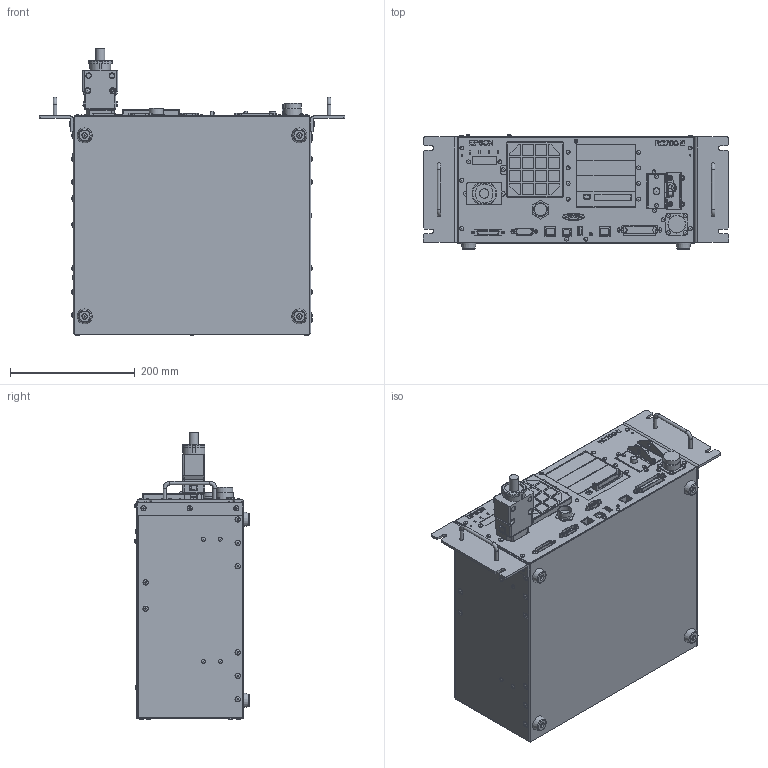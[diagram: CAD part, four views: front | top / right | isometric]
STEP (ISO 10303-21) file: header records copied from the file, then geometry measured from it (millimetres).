
FILE_DESCRIPTION(/* description */ ('STEP AP214'),/* implementation_level */ '2;1');
FILE_NAME(/* name */ 'RC-700E_S',/* time_stamp */ '2024-09-05T12:39:06+02:00',/* author */ ('License CC BY-ND 4.0'),/* organization */ ('CADENAS'),/* preprocessor_version */ 'ST-DEVELOPER v19.3',/* originating_system */ 'PARTsolutions',/* authorisation */ ' ');
FILE_SCHEMA (('AUTOMOTIVE_DESIGN {1 0 10303 214 3 1 1}'));
Products named in the file (6): RC-700E_S; RC700-E_1; RC700-E_2; RC700-E_3; StrtaightSTRAIGHT; RC700-D_4
Assembly tree (9 placements, depth 2):
  RC-700E_S
    RC700-E_1
    RC700-E_2  x2
    RC700-E_3  x4
    StrtaightSTRAIGHT
    RC700-D_4
Bounding box: 489.4 x 183.59 x 460.95 mm (x, y, z)
Volume: 22978027.3 mm3; surface area: 677758.9 mm2
Topology: 9 solids, 18 shells, 2167 faces, 5678 edges, 3735 vertices
Faces by surface type: plane 1532, cylinder 465, sphere 76, torus 61, cone 29, bspline 4
Full cylindrical faces by diameter (mm): 1 x15, 2 x8, 2.175 x4, 2.2 x4, 2.4 x3, 2.5 x8, 3.1 x1, 4 x2, 5.05 x1, 5.9 x6, 6 x6, 6.3 x46, 7 x8, 8 x6, 8.3 x27, 8.465 x4, 9 x4, 9.2 x2, 15 x1, 19.6 x1, 22.6 x1, 26.91 x1, 28.47 x1
Entity records: 74887 total; most frequent: CARTESIAN_POINT 10731, DIRECTION 10138, ORIENTED_EDGE 9966, EDGE_CURVE 4983, LINE 3956, VECTOR 3956, VERTEX_POINT 3445, AXIS2_PLACEMENT_3D 3091
